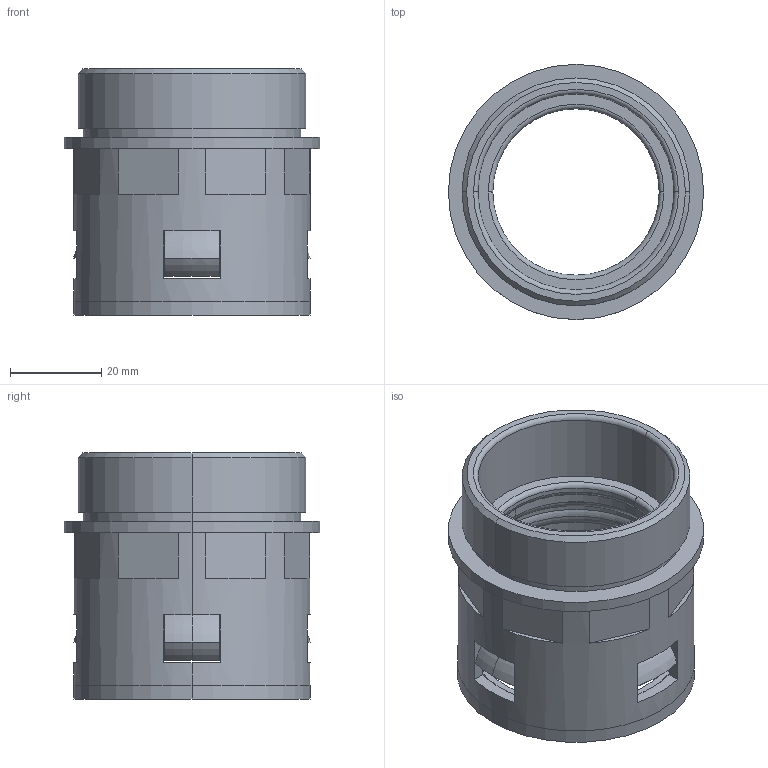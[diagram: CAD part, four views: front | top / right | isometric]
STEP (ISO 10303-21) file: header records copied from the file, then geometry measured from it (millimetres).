
FILE_DESCRIPTION (( 'STEP AP203' ), '1' );
FILE_NAME ('WQG-M50 AD42.5.STEP', '2013-12-11T02:34:22', ( 'User' ), ( 'Microsoft' ), 'SwSTEP 2.0', 'SolidWorks 2010', '' );
FILE_SCHEMA (( 'CONFIG_CONTROL_DESIGN' ));
Length unit declared in the file: millimetre
Products named in the file (4): WQG-M50 AD42.5-01; WQG-M50 AD42.5; GFD-AD42.5; NSK-AD42.5
Assembly tree (3 placements, depth 2):
  WQG-M50 AD42.5
    NSK-AD42.5
    WQG-M50 AD42.5-01
    GFD-AD42.5
Bounding box: 56 x 56 x 54 mm (x, y, z)
Volume: 31288.8 mm3; surface area: 36013.6 mm2
Topology: 3 solids, 4 shells, 230 faces, 566 edges, 344 vertices
Faces by surface type: plane 88, cone 77, torus 36, cylinder 29
Entity records: 7406 total; most frequent: CARTESIAN_POINT 1338, DIRECTION 1306, ORIENTED_EDGE 1132, EDGE_CURVE 566, AXIS2_PLACEMENT_3D 528, VERTEX_POINT 344, CIRCLE 292, EDGE_LOOP 254
